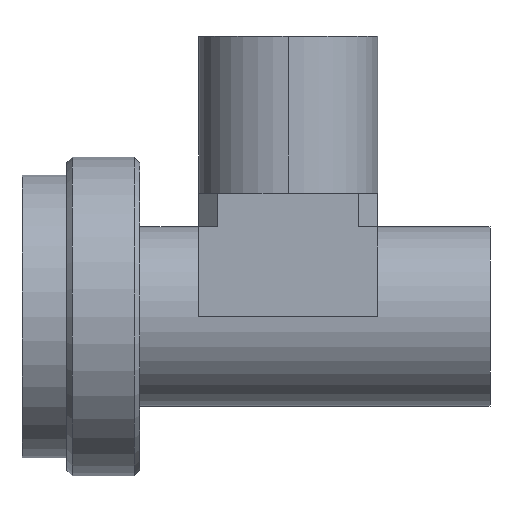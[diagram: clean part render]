
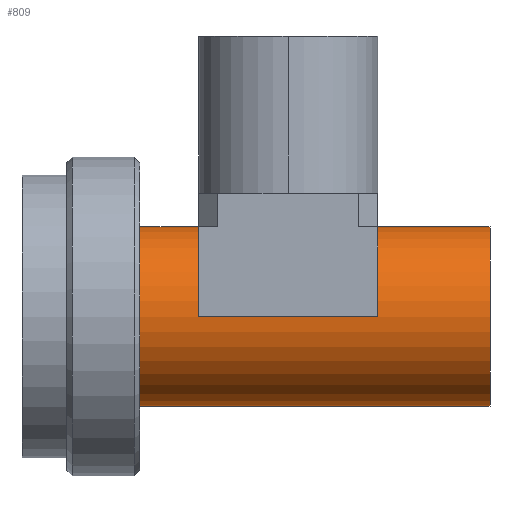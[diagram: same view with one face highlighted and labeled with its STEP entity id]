
A CAD part, left-side view. The second image highlights one B-rep face of the part: STEP entity #809.
In plain terms, the highlighted cylindrical face has radius 8 mm (diameter 16 mm), a partial arc.
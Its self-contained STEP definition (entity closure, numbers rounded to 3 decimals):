
#60 = ORIENTED_EDGE ( 'NONE', *, *, #91, .T. ) ;
#70 = VECTOR ( 'NONE', #174, 1000. ) ;
#83 = DIRECTION ( 'NONE',  ( 0., -1., 0. ) ) ;
#91 = EDGE_CURVE ( 'NONE', #1489, #400, #932, .T. ) ;
#97 = AXIS2_PLACEMENT_3D ( 'NONE', #522, #517, #1317 ) ;
#120 = ORIENTED_EDGE ( 'NONE', *, *, #176, .T. ) ;
#142 = ORIENTED_EDGE ( 'NONE', *, *, #146, .T. ) ;
#146 = EDGE_CURVE ( 'NONE', #813, #941, #321, .T. ) ;
#158 = CARTESIAN_POINT ( 'NONE',  ( 0., 0., -8. ) ) ;
#171 = EDGE_LOOP ( 'NONE', ( #293, #380, #120, #731, #364, #142, #501, #60 ) ) ;
#174 = DIRECTION ( 'NONE',  ( 0., -1., 0. ) ) ;
#176 = EDGE_CURVE ( 'NONE', #494, #901, #1088, .T. ) ;
#206 = CARTESIAN_POINT ( 'NONE',  ( 0., 26., 0. ) ) ;
#242 = DIRECTION ( 'NONE',  ( 0., 0., -1. ) ) ;
#283 = LINE ( 'NONE', #1373, #906 ) ;
#293 = ORIENTED_EDGE ( 'NONE', *, *, #1007, .F. ) ;
#295 = DIRECTION ( 'NONE',  ( 0., -1., 0. ) ) ;
#321 = CIRCLE ( 'NONE', #392, 8. ) ;
#360 = CARTESIAN_POINT ( 'NONE',  ( 0., 10., 8. ) ) ;
#364 = ORIENTED_EDGE ( 'NONE', *, *, #1296, .F. ) ;
#380 = ORIENTED_EDGE ( 'NONE', *, *, #787, .T. ) ;
#389 = CYLINDRICAL_SURFACE ( 'NONE', #752, 8. ) ;
#391 = CIRCLE ( 'NONE', #97, 8. ) ;
#392 = AXIS2_PLACEMENT_3D ( 'NONE', #1466, #83, #1004 ) ;
#400 = VERTEX_POINT ( 'NONE', #958 ) ;
#407 = LINE ( 'NONE', #417, #70 ) ;
#417 = CARTESIAN_POINT ( 'NONE',  ( -8., 0., 0. ) ) ;
#446 = EDGE_CURVE ( 'NONE', #1168, #901, #391, .T. ) ;
#455 = CARTESIAN_POINT ( 'NONE',  ( 0., 31.25, 8. ) ) ;
#494 = VERTEX_POINT ( 'NONE', #538 ) ;
#501 = ORIENTED_EDGE ( 'NONE', *, *, #1041, .F. ) ;
#517 = DIRECTION ( 'NONE',  ( 0., -1., 0. ) ) ;
#522 = CARTESIAN_POINT ( 'NONE',  ( 0., 0., 0. ) ) ;
#529 = DIRECTION ( 'NONE',  ( 0., 0., 1. ) ) ;
#538 = CARTESIAN_POINT ( 'NONE',  ( 0., 31.25, -8. ) ) ;
#598 = DIRECTION ( 'NONE',  ( 0., -1., 0. ) ) ;
#604 = CARTESIAN_POINT ( 'NONE',  ( -8., 26., 0. ) ) ;
#620 = VERTEX_POINT ( 'NONE', #455 ) ;
#697 = FACE_OUTER_BOUND ( 'NONE', #171, .T. ) ;
#724 = VECTOR ( 'NONE', #295, 1000. ) ;
#731 = ORIENTED_EDGE ( 'NONE', *, *, #446, .F. ) ;
#745 = DIRECTION ( 'NONE',  ( 0., -1., 0. ) ) ;
#749 = CARTESIAN_POINT ( 'NONE',  ( 0., 0., 8. ) ) ;
#752 = AXIS2_PLACEMENT_3D ( 'NONE', #918, #1390, #242 ) ;
#781 = AXIS2_PLACEMENT_3D ( 'NONE', #1042, #598, #1143 ) ;
#787 = EDGE_CURVE ( 'NONE', #620, #494, #1087, .T. ) ;
#809 = ADVANCED_FACE ( 'NONE', ( #697 ), #389, .T. ) ;
#810 = DIRECTION ( 'NONE',  ( 0., -1., 0. ) ) ;
#813 = VERTEX_POINT ( 'NONE', #360 ) ;
#901 = VERTEX_POINT ( 'NONE', #158 ) ;
#906 = VECTOR ( 'NONE', #810, 1000. ) ;
#918 = CARTESIAN_POINT ( 'NONE',  ( 0., 0., 0. ) ) ;
#932 = CIRCLE ( 'NONE', #1330, 8. ) ;
#941 = VERTEX_POINT ( 'NONE', #1060 ) ;
#958 = CARTESIAN_POINT ( 'NONE',  ( 0., 26., 8. ) ) ;
#962 = LINE ( 'NONE', #749, #724 ) ;
#999 = CARTESIAN_POINT ( 'NONE',  ( 0., 0., -8. ) ) ;
#1004 = DIRECTION ( 'NONE',  ( 0., 0., -1. ) ) ;
#1007 = EDGE_CURVE ( 'NONE', #620, #400, #962, .T. ) ;
#1041 = EDGE_CURVE ( 'NONE', #1489, #941, #407, .T. ) ;
#1042 = CARTESIAN_POINT ( 'NONE',  ( 0., 31.25, 0. ) ) ;
#1060 = CARTESIAN_POINT ( 'NONE',  ( -8., 10., 0. ) ) ;
#1087 = CIRCLE ( 'NONE', #781, 8. ) ;
#1088 = LINE ( 'NONE', #999, #1274 ) ;
#1143 = DIRECTION ( 'NONE',  ( 0., 0., -1. ) ) ;
#1168 = VERTEX_POINT ( 'NONE', #1354 ) ;
#1274 = VECTOR ( 'NONE', #745, 1000. ) ;
#1296 = EDGE_CURVE ( 'NONE', #813, #1168, #283, .T. ) ;
#1317 = DIRECTION ( 'NONE',  ( 0., 0., -1. ) ) ;
#1330 = AXIS2_PLACEMENT_3D ( 'NONE', #206, #1470, #529 ) ;
#1354 = CARTESIAN_POINT ( 'NONE',  ( 0., 0., 8. ) ) ;
#1373 = CARTESIAN_POINT ( 'NONE',  ( 0., 0., 8. ) ) ;
#1390 = DIRECTION ( 'NONE',  ( 0., -1., 0. ) ) ;
#1466 = CARTESIAN_POINT ( 'NONE',  ( 0., 10., 0. ) ) ;
#1470 = DIRECTION ( 'NONE',  ( 0., 1., 0. ) ) ;
#1489 = VERTEX_POINT ( 'NONE', #604 ) ;
